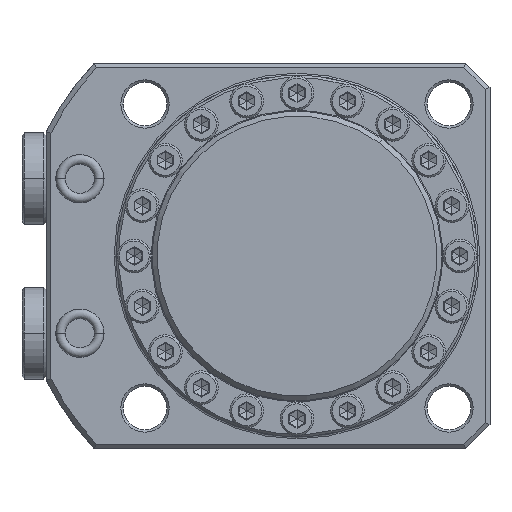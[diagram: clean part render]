
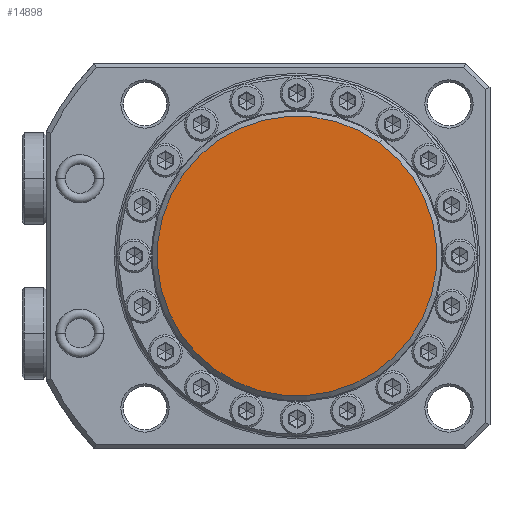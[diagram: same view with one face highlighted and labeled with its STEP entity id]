
A CAD part, front view. The second image highlights one B-rep face of the part: STEP entity #14898.
In plain terms, the highlighted planar face has unit normal (0, -1, 0) as drawn and (0, 0, 1) by its records, which use the part's own axes.
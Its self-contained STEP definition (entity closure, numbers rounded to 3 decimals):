
#13125=CARTESIAN_POINT('',(0.,0.,0.));
#13126=DIRECTION('',(0.,0.,1.));
#13127=DIRECTION('',(-1.,0.,0.));
#13128=AXIS2_PLACEMENT_3D('',#13125,#13126,#13127);
#13130=CARTESIAN_POINT('',(0.,0.,0.));
#13131=DIRECTION('',(0.,0.,1.));
#13132=DIRECTION('',(1.,0.,0.));
#13133=AXIS2_PLACEMENT_3D('',#13130,#13131,#13132);
#14535=CARTESIAN_POINT('',(-29.,0.,0.));
#14536=CARTESIAN_POINT('',(29.,0.,0.));
#14537=VERTEX_POINT('',#14535);
#14538=VERTEX_POINT('',#14536);
#14887=CARTESIAN_POINT('',(0.,0.,0.));
#14888=DIRECTION('',(0.,0.,1.));
#14889=DIRECTION('',(-1.,0.,0.));
#14890=AXIS2_PLACEMENT_3D('',#14887,#14888,#14889);
#14891=PLANE('',#14890);
#14893=ORIENTED_EDGE('',*,*,#14892,.F.);
#14895=ORIENTED_EDGE('',*,*,#14894,.F.);
#14896=EDGE_LOOP('',(#14893,#14895));
#14897=FACE_OUTER_BOUND('',#14896,.F.);
#14898=ADVANCED_FACE('',(#14897),#14891,.T.);
#13129=CIRCLE('',#13128,29.);
#13134=CIRCLE('',#13133,29.);
#14892=EDGE_CURVE('',#14537,#14538,#13129,.T.);
#14894=EDGE_CURVE('',#14538,#14537,#13134,.T.);
